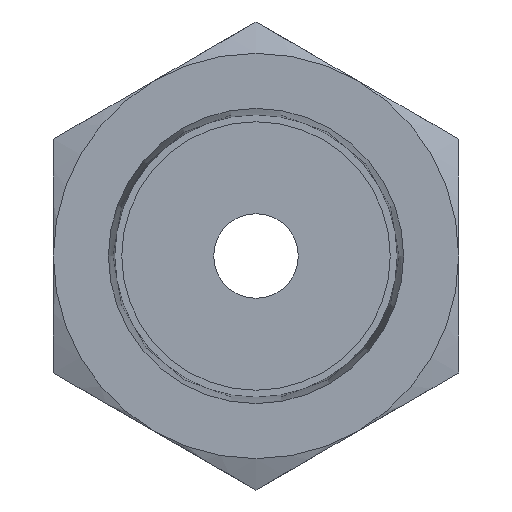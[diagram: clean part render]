
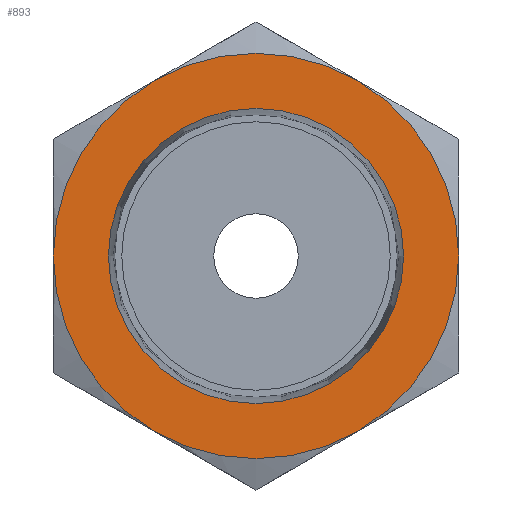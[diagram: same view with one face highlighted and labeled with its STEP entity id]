
A CAD part, front view. The second image highlights one B-rep face of the part: STEP entity #893.
In plain terms, the highlighted planar face has unit normal (0, -1, 0).
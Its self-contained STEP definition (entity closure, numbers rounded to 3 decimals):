
#38=FACE_BOUND('',#194,.T.);
#130=FACE_OUTER_BOUND('',#193,.T.);
#193=EDGE_LOOP('',(#805,#806,#807,#808,#809,#810));
#194=EDGE_LOOP('',(#811));
#210=CIRCLE('',#957,4.369);
#228=CIRCLE('',#990,6.);
#229=CIRCLE('',#992,6.);
#230=CIRCLE('',#994,6.);
#231=CIRCLE('',#996,6.);
#232=CIRCLE('',#998,6.);
#233=CIRCLE('',#1000,6.);
#391=VERTEX_POINT('',#1382);
#396=VERTEX_POINT('',#1403);
#400=VERTEX_POINT('',#1422);
#404=VERTEX_POINT('',#1441);
#411=VERTEX_POINT('',#1469);
#428=VERTEX_POINT('',#1529);
#430=VERTEX_POINT('',#1536);
#512=EDGE_CURVE('',#411,#411,#210,.T.);
#538=EDGE_CURVE('',#404,#400,#228,.T.);
#540=EDGE_CURVE('',#428,#404,#229,.T.);
#543=EDGE_CURVE('',#430,#428,#230,.T.);
#545=EDGE_CURVE('',#391,#430,#231,.T.);
#546=EDGE_CURVE('',#396,#391,#232,.T.);
#547=EDGE_CURVE('',#400,#396,#233,.T.);
#805=ORIENTED_EDGE('',*,*,#547,.T.);
#806=ORIENTED_EDGE('',*,*,#546,.T.);
#807=ORIENTED_EDGE('',*,*,#545,.T.);
#808=ORIENTED_EDGE('',*,*,#543,.T.);
#809=ORIENTED_EDGE('',*,*,#540,.T.);
#810=ORIENTED_EDGE('',*,*,#538,.T.);
#811=ORIENTED_EDGE('',*,*,#512,.T.);
#838=PLANE('',#1016);
#893=ADVANCED_FACE('',(#130,#38),#838,.F.);
#957=AXIS2_PLACEMENT_3D('',#1470,#1146,#1147);
#990=AXIS2_PLACEMENT_3D('',#1527,#1220,#1221);
#992=AXIS2_PLACEMENT_3D('',#1533,#1224,#1225);
#994=AXIS2_PLACEMENT_3D('',#1543,#1228,#1229);
#996=AXIS2_PLACEMENT_3D('',#1548,#1232,#1233);
#998=AXIS2_PLACEMENT_3D('',#1550,#1236,#1237);
#1000=AXIS2_PLACEMENT_3D('',#1552,#1240,#1241);
#1016=AXIS2_PLACEMENT_3D('',#1585,#1274,#1275);
#1146=DIRECTION('center_axis',(0.,1.,0.));
#1147=DIRECTION('ref_axis',(1.,0.,0.));
#1220=DIRECTION('center_axis',(0.,-1.,0.));
#1221=DIRECTION('ref_axis',(1.,0.,0.));
#1224=DIRECTION('center_axis',(0.,-1.,0.));
#1225=DIRECTION('ref_axis',(1.,0.,0.));
#1228=DIRECTION('center_axis',(0.,-1.,0.));
#1229=DIRECTION('ref_axis',(1.,0.,0.));
#1232=DIRECTION('center_axis',(0.,-1.,0.));
#1233=DIRECTION('ref_axis',(1.,0.,0.));
#1236=DIRECTION('center_axis',(0.,-1.,0.));
#1237=DIRECTION('ref_axis',(1.,0.,0.));
#1240=DIRECTION('center_axis',(0.,-1.,0.));
#1241=DIRECTION('ref_axis',(1.,0.,0.));
#1274=DIRECTION('center_axis',(0.,1.,0.));
#1275=DIRECTION('ref_axis',(0.,0.,1.));
#1382=CARTESIAN_POINT('',(6.,0.,0.));
#1403=CARTESIAN_POINT('',(3.,0.,-5.196));
#1422=CARTESIAN_POINT('',(-3.,0.,-5.196));
#1441=CARTESIAN_POINT('',(-6.,0.,0.));
#1469=CARTESIAN_POINT('',(-4.369,0.,0.));
#1470=CARTESIAN_POINT('Origin',(0.,0.,0.));
#1527=CARTESIAN_POINT('Origin',(0.,0.,0.));
#1529=CARTESIAN_POINT('',(-3.,0.,5.196));
#1533=CARTESIAN_POINT('Origin',(0.,0.,0.));
#1536=CARTESIAN_POINT('',(3.,0.,5.196));
#1543=CARTESIAN_POINT('Origin',(0.,0.,0.));
#1548=CARTESIAN_POINT('Origin',(0.,0.,0.));
#1550=CARTESIAN_POINT('Origin',(0.,0.,0.));
#1552=CARTESIAN_POINT('Origin',(0.,0.,0.));
#1585=CARTESIAN_POINT('Origin',(0.,0.,0.));
